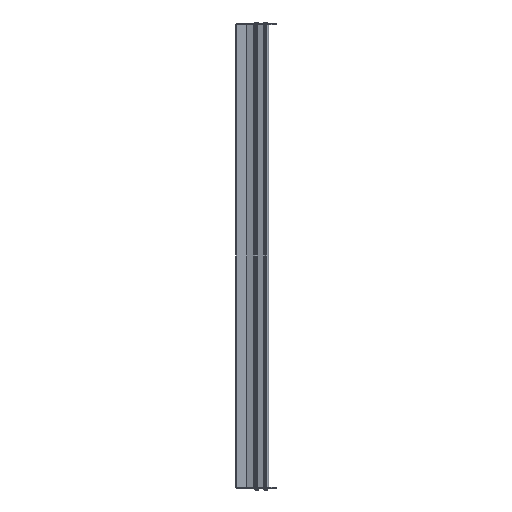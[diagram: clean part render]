
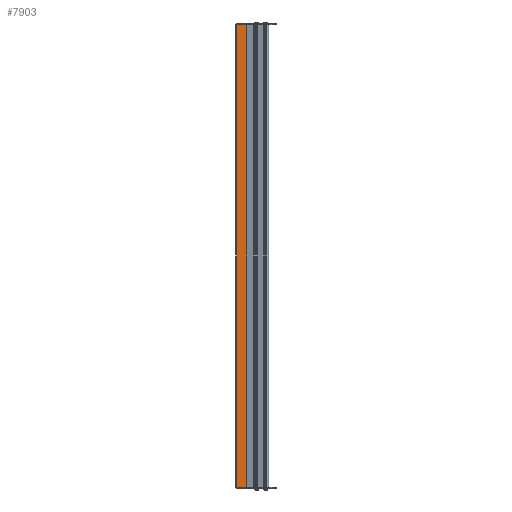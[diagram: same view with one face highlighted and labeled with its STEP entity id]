
A CAD part, left-side view. The second image highlights one B-rep face of the part: STEP entity #7903.
In plain terms, the highlighted planar face has unit normal (-1, 0, 0) as drawn and (1, 0, 0) by its records, which use the part's own axes.
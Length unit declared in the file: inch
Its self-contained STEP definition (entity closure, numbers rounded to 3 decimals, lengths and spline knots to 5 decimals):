
#6784=DIRECTION('',(0.,-1.,0.));
#6785=VECTOR('',#6784,0.88707);
#6786=CARTESIAN_POINT('',(0.048,0.904,-21.118));
#6787=LINE('',#6786,#6785);
#6810=DIRECTION('',(0.,0.,1.));
#6811=VECTOR('',#6810,42.236);
#6812=CARTESIAN_POINT('',(0.048,0.01693,-21.118));
#6813=LINE('',#6812,#6811);
#6814=DIRECTION('',(0.,-1.,0.));
#6815=VECTOR('',#6814,0.88707);
#6816=CARTESIAN_POINT('',(0.048,0.904,21.118));
#6817=LINE('',#6816,#6815);
#6818=DIRECTION('',(0.,0.,-1.));
#6819=VECTOR('',#6818,42.236);
#6820=CARTESIAN_POINT('',(0.048,0.904,21.118));
#6821=LINE('',#6820,#6819);
#7266=CARTESIAN_POINT('',(0.048,0.01693,-21.118));
#7267=CARTESIAN_POINT('',(0.048,0.01693,21.118));
#7268=VERTEX_POINT('',#7266);
#7269=VERTEX_POINT('',#7267);
#7319=CARTESIAN_POINT('',(0.048,0.904,-21.118));
#7321=VERTEX_POINT('',#7319);
#7426=CARTESIAN_POINT('',(0.048,0.904,21.118));
#7427=VERTEX_POINT('',#7426);
#7891=CARTESIAN_POINT('',(0.048,0.,21.118));
#7892=DIRECTION('',(-1.,0.,0.));
#7893=DIRECTION('',(0.,0.,1.));
#7894=AXIS2_PLACEMENT_3D('',#7891,#7892,#7893);
#7895=PLANE('',#7894);
#7896=ORIENTED_EDGE('',*,*,#7857,.T.);
#7897=ORIENTED_EDGE('',*,*,#7886,.T.);
#7898=ORIENTED_EDGE('',*,*,#7828,.F.);
#7900=ORIENTED_EDGE('',*,*,#7899,.T.);
#7901=EDGE_LOOP('',(#7896,#7897,#7898,#7900));
#7902=FACE_OUTER_BOUND('',#7901,.F.);
#7828=EDGE_CURVE('',#7427,#7269,#6817,.T.);
#7857=EDGE_CURVE('',#7321,#7268,#6787,.T.);
#7886=EDGE_CURVE('',#7268,#7269,#6813,.T.);
#7899=EDGE_CURVE('',#7427,#7321,#6821,.T.);
#7903=ADVANCED_FACE('',(#7902),#7895,.F.);
